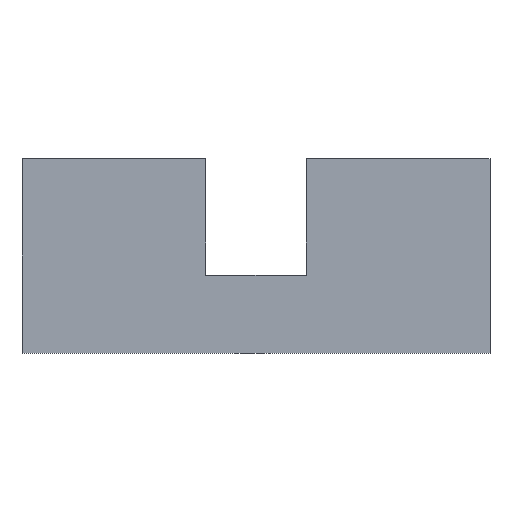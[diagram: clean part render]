
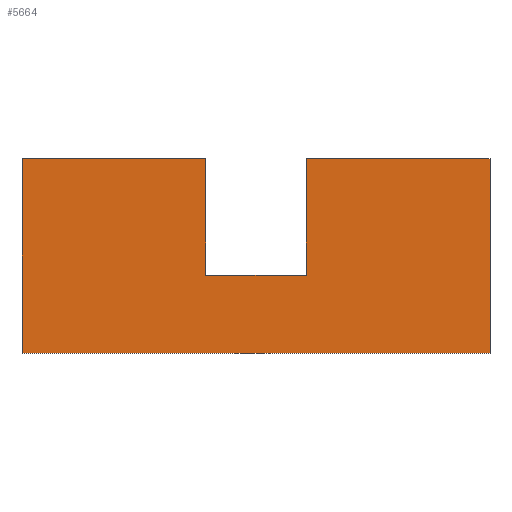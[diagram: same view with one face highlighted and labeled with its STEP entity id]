
A CAD part, left-side view. The second image highlights one B-rep face of the part: STEP entity #5664.
In plain terms, the highlighted planar face has unit normal (-1, 0, 0).
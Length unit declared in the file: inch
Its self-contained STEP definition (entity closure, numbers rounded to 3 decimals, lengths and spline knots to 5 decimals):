
#338=FACE_OUTER_BOUND('',#630,.T.);
#630=EDGE_LOOP('',(#5029,#5030,#5031,#5032,#5033,#5034,#5035,#5036));
#1352=LINE('',#8850,#2132);
#1364=LINE('',#8874,#2144);
#1370=LINE('',#8886,#2150);
#1378=LINE('',#8901,#2158);
#1389=LINE('',#8923,#2169);
#1410=LINE('',#8963,#2190);
#1416=LINE('',#8975,#2196);
#1417=LINE('',#8976,#2197);
#2132=VECTOR('',#7247,0.3937);
#2144=VECTOR('',#7267,0.3937);
#2150=VECTOR('',#7277,0.3937);
#2158=VECTOR('',#7293,0.3937);
#2169=VECTOR('',#7314,0.3937);
#2190=VECTOR('',#7351,0.3937);
#2196=VECTOR('',#7369,0.3937);
#2197=VECTOR('',#7370,0.3937);
#2687=VERTEX_POINT('',#8847);
#2688=VERTEX_POINT('',#8849);
#2695=VERTEX_POINT('',#8871);
#2696=VERTEX_POINT('',#8873);
#2700=VERTEX_POINT('',#8885);
#2703=VERTEX_POINT('',#8899);
#2708=VERTEX_POINT('',#8920);
#2719=VERTEX_POINT('',#8959);
#3444=EDGE_CURVE('',#2688,#2687,#1352,.T.);
#3456=EDGE_CURVE('',#2696,#2695,#1364,.T.);
#3462=EDGE_CURVE('',#2688,#2700,#1370,.T.);
#3470=EDGE_CURVE('',#2703,#2695,#1378,.T.);
#3481=EDGE_CURVE('',#2703,#2708,#1389,.T.);
#3502=EDGE_CURVE('',#2700,#2719,#1410,.T.);
#3508=EDGE_CURVE('',#2696,#2687,#1416,.T.);
#3509=EDGE_CURVE('',#2719,#2708,#1417,.T.);
#5029=ORIENTED_EDGE('',*,*,#3508,.F.);
#5030=ORIENTED_EDGE('',*,*,#3456,.T.);
#5031=ORIENTED_EDGE('',*,*,#3470,.F.);
#5032=ORIENTED_EDGE('',*,*,#3481,.T.);
#5033=ORIENTED_EDGE('',*,*,#3509,.F.);
#5034=ORIENTED_EDGE('',*,*,#3502,.F.);
#5035=ORIENTED_EDGE('',*,*,#3462,.F.);
#5036=ORIENTED_EDGE('',*,*,#3444,.T.);
#5375=PLANE('',#5993);
#5664=ADVANCED_FACE('',(#338),#5375,.T.);
#5993=AXIS2_PLACEMENT_3D('',#8974,#7367,#7368);
#7247=DIRECTION('',(0.,0.,-1.));
#7267=DIRECTION('',(0.,0.,1.));
#7277=DIRECTION('',(0.,-1.,0.));
#7293=DIRECTION('',(0.,-1.,0.));
#7314=DIRECTION('',(0.,0.,-1.));
#7351=DIRECTION('',(0.,0.,-1.));
#7367=DIRECTION('center_axis',(-1.,0.,0.));
#7368=DIRECTION('ref_axis',(0.,0.,1.));
#7369=DIRECTION('',(0.,-1.,0.));
#7370=DIRECTION('',(0.,1.,0.));
#8847=CARTESIAN_POINT('',(1.48565,3.25745,0.497));
#8849=CARTESIAN_POINT('',(1.48565,3.25745,1.237));
#8850=CARTESIAN_POINT('',(1.48565,3.25745,1.237));
#8871=CARTESIAN_POINT('',(1.48565,3.89745,1.237));
#8873=CARTESIAN_POINT('',(1.48565,3.89745,0.497));
#8874=CARTESIAN_POINT('',(1.48565,3.89745,0.497));
#8885=CARTESIAN_POINT('',(1.48565,2.08995,1.237));
#8886=CARTESIAN_POINT('',(1.48565,3.25745,1.237));
#8899=CARTESIAN_POINT('',(1.48565,5.06495,1.237));
#8901=CARTESIAN_POINT('',(1.48565,5.06495,1.237));
#8920=CARTESIAN_POINT('',(1.48565,5.06495,0.));
#8923=CARTESIAN_POINT('',(1.48565,5.06495,1.237));
#8959=CARTESIAN_POINT('',(1.48565,2.08995,0.));
#8963=CARTESIAN_POINT('',(1.48565,2.08995,1.237));
#8974=CARTESIAN_POINT('Origin',(1.48565,3.57745,1.237));
#8975=CARTESIAN_POINT('',(1.48565,3.89745,0.497));
#8976=CARTESIAN_POINT('',(1.48565,2.08995,0.));
